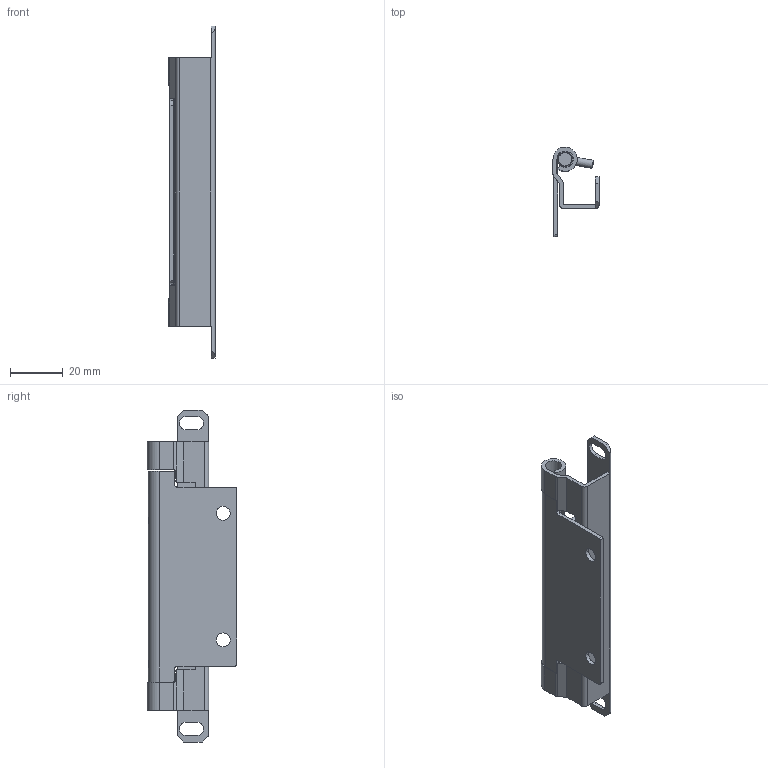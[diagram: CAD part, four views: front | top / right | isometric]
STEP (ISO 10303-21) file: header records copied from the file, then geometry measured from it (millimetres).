
FILE_DESCRIPTION (( 'STEP AP203' ), '1' );
FILE_NAME ('XG02-065-3.STEP', '2023-12-09T03:18:27', ( '' ), ( '' ), 'SwSTEP 2.0', 'SolidWorks 2020', '' );
FILE_SCHEMA (( 'CONFIG_CONTROL_DESIGN' ));
Length unit declared in the file: millimetre
Products named in the file (6): 粟銅; HL042-B; HL042-A; HL042-C; HL042; XG02-065-3
Assembly tree (7 placements, depth 2):
  XG02-065-3
    HL042
    HL042-A
    HL042-B  x2
    HL042-C  x2
    粟銅
Bounding box: 17.5 x 33.95 x 126 mm (x, y, z)
Volume: 13004.1 mm3; surface area: 18006.8 mm2
Topology: 7 solids, 7 shells, 164 faces, 426 edges, 274 vertices
Faces by surface type: plane 72, cylinder 64, cone 16, bspline 12
Entity records: 13087 total; most frequent: CARTESIAN_POINT 8913, ORIENTED_EDGE 756, DIRECTION 696, EDGE_CURVE 378, VERTEX_POINT 246, AXIS2_PLACEMENT_3D 240, VECTOR 216, LINE 216
